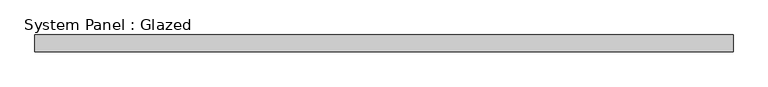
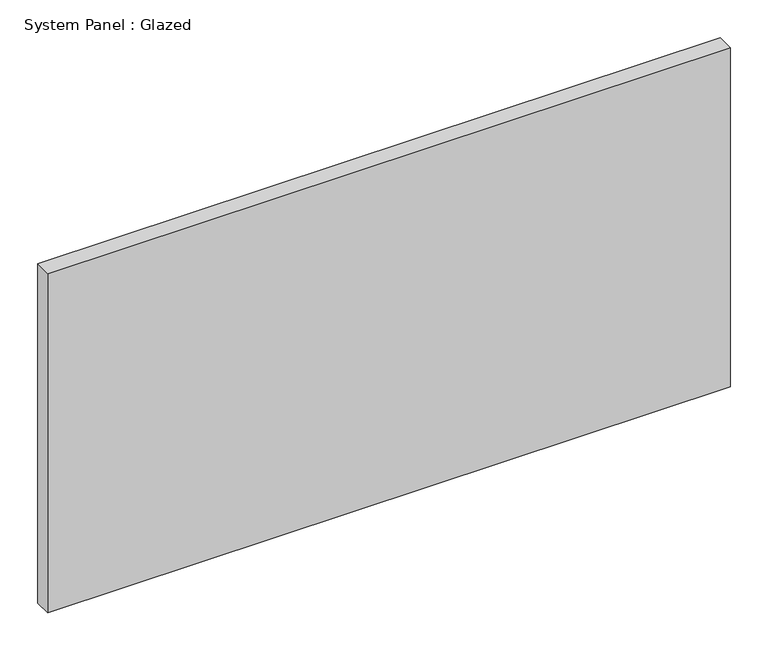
"""IFC4 building model written with IfcOpenShell, lengths in millimetres: plate geometry, System Panel : Glazed."""

from ifc_helpers import new_model, si_unit, origin, origin_with_axes, place, context, project, spatial, polyline, outline, extrude, source, transform, mapped, element, save


def system_panel_glazed_cbd16b08(model_context):
    return source(origin(), model_context, "Body", "SweptSolid", [
        extrude(outline(polyline([(519.3392857, 19.05), (-519.3392857, 19.05), (-519.3392857, 44.45), (519.3392857, 44.45), (519.3392857, 19.05)])), origin_with_axes(), (0.0, 0.0, 1.0), 546.1),
    ])


if __name__ == "__main__":
    model = new_model("IFC4")
    model_context = context("Model", 3, world=origin())
    ifc_project = project(units=[si_unit("LENGTHUNIT", "METRE", prefix="MILLI")], contexts=[model_context])
    site = spatial("IfcSite", under=ifc_project)
    building = spatial("IfcBuilding", under=site)
    placement = place(None, origin())
    system_panel_glazed_shape = system_panel_glazed_cbd16b08(model_context)
    element("IfcPlate", 1, ObjectType="System Panel : Glazed", at=placement, inside=building, context=model_context, shape_type="MappedRepresentation", body=[
        mapped(system_panel_glazed_shape, transform((0.0, 0.0, 0.0), x_axis=(1.0, 0.0, 0.0), y_axis=(0.0, 1.0, 0.0), z_axis=(0.0, 0.0, 1.0))),
    ])
    save(model, "model.ifc")
